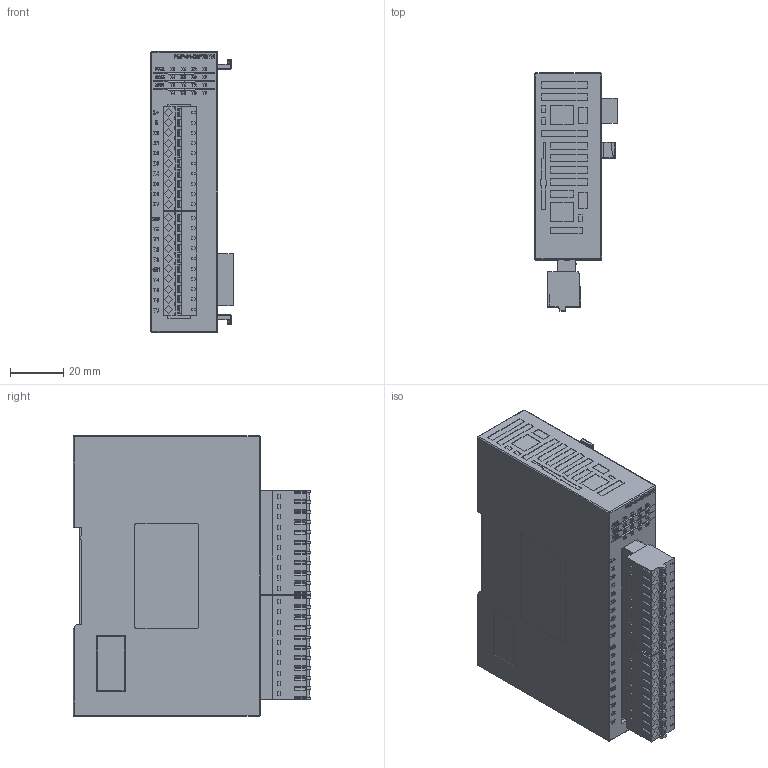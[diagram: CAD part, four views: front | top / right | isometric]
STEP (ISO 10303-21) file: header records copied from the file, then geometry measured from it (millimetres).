
FILE_DESCRIPTION(('STEP AP242'), '1');
FILE_NAME('PMP-01-E8PX8YR_1', '', ('UNSPECIFIED'), ('UNSPECIFIED'), 'C3D Converter', 'C3D Toolkit', '');
FILE_SCHEMA(('AP242_MANAGED_MODEL_BASED_3D_ENGINEERING_MIM_LF { 1 0 10303 442 1 1 4 }'));
Length unit declared in the file: millimetre
Products named in the file (1): PMP-01-E8PX8YR
Bounding box: 30.8 x 88.99 x 105 mm (x, y, z)
Volume: 195153.7 mm3; surface area: 32364.9 mm2
Topology: 83 solids, 83 shells, 3118 faces, 8219 edges, 5432 vertices
Faces by surface type: plane 2251, bspline 608, extrusion 147, cylinder 112
Full cylindrical faces by diameter (mm): 3 x20
Entity records: 225972 total; most frequent: CARTESIAN_POINT 130419, ORIENTED_EDGE 16396, DIRECTION 10536, EDGE_CURVE 8198, VERTEX_POINT 5432, VECTOR 5382, LINE 5235, EDGE_LOOP 3340
